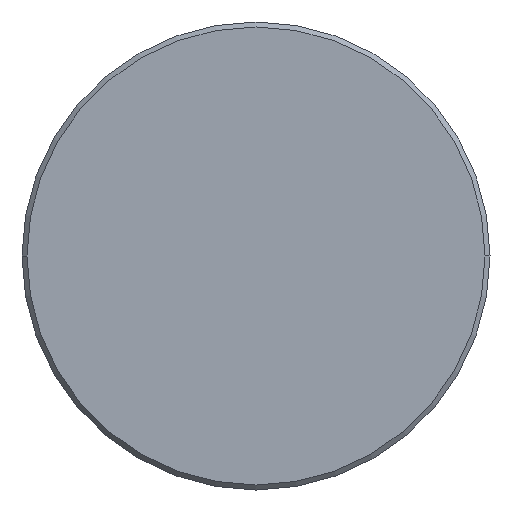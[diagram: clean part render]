
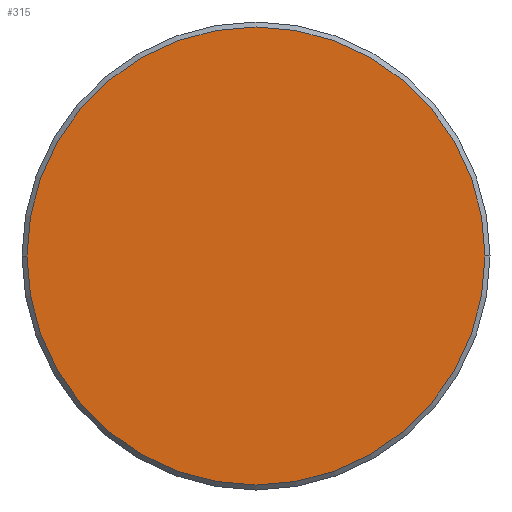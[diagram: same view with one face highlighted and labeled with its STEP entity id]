
A CAD part, front view. The second image highlights one B-rep face of the part: STEP entity #315.
In plain terms, the highlighted planar face has unit normal (0, -1, 0).
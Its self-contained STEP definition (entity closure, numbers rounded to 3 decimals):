
#22 = CARTESIAN_POINT ( 'NONE',  ( 0., -6., 0. ) ) ;
#85 = CIRCLE ( 'NONE', #538, 23. ) ;
#87 = ORIENTED_EDGE ( 'NONE', *, *, #785, .T. ) ;
#112 = AXIS2_PLACEMENT_3D ( 'NONE', #246, #452, #676 ) ;
#126 = AXIS2_PLACEMENT_3D ( 'NONE', #303, #730, #366 ) ;
#153 = ORIENTED_EDGE ( 'NONE', *, *, #259, .T. ) ;
#229 = FACE_OUTER_BOUND ( 'NONE', #578, .T. ) ;
#246 = CARTESIAN_POINT ( 'NONE',  ( 0., -6., 0. ) ) ;
#259 = EDGE_CURVE ( 'NONE', #521, #648, #85, .T. ) ;
#303 = CARTESIAN_POINT ( 'NONE',  ( 0., -6., 0. ) ) ;
#315 = ADVANCED_FACE ( 'NONE', ( #229 ), #705, .F. ) ;
#366 = DIRECTION ( 'NONE',  ( -1., 0., 0. ) ) ;
#452 = DIRECTION ( 'NONE',  ( 0., 1., 0. ) ) ;
#521 = VERTEX_POINT ( 'NONE', #611 ) ;
#538 = AXIS2_PLACEMENT_3D ( 'NONE', #22, #583, #630 ) ;
#578 = EDGE_LOOP ( 'NONE', ( #153, #87 ) ) ;
#583 = DIRECTION ( 'NONE',  ( 0., -1., 0. ) ) ;
#611 = CARTESIAN_POINT ( 'NONE',  ( -23., -6., 0. ) ) ;
#630 = DIRECTION ( 'NONE',  ( -1., 0., 0. ) ) ;
#648 = VERTEX_POINT ( 'NONE', #775 ) ;
#676 = DIRECTION ( 'NONE',  ( -1., 0., 0. ) ) ;
#705 = PLANE ( 'NONE',  #112 ) ;
#730 = DIRECTION ( 'NONE',  ( 0., -1., 0. ) ) ;
#752 = CIRCLE ( 'NONE', #126, 23. ) ;
#775 = CARTESIAN_POINT ( 'NONE',  ( 23., -6., 0. ) ) ;
#785 = EDGE_CURVE ( 'NONE', #648, #521, #752, .T. ) ;
